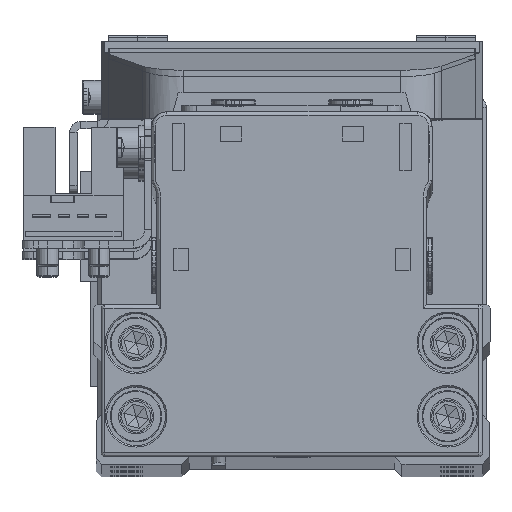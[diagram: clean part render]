
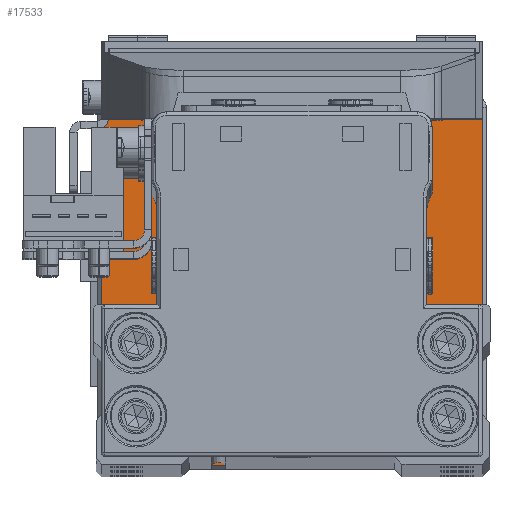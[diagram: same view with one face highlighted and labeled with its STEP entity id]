
A CAD part, top view. The second image highlights one B-rep face of the part: STEP entity #17533.
In plain terms, the highlighted planar face has unit normal (0, 0, 1).
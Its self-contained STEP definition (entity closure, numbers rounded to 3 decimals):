
#305 = AXIS2_PLACEMENT_3D ( 'NONE', #11269, #22020, #32743 ) ;
#432 = DIRECTION ( 'NONE',  ( -1., 0., 0. ) ) ;
#465 = AXIS2_PLACEMENT_3D ( 'NONE', #25030, #898, #11641 ) ;
#571 = AXIS2_PLACEMENT_3D ( 'NONE', #14546, #25297, #1162 ) ;
#695 = VERTEX_POINT ( 'NONE', #14957 ) ;
#898 = DIRECTION ( 'NONE',  ( 0., 0., -1. ) ) ;
#1104 = ORIENTED_EDGE ( 'NONE', *, *, #17793, .T. ) ;
#1162 = DIRECTION ( 'NONE',  ( 1., 0., 0. ) ) ;
#1515 = CARTESIAN_POINT ( 'NONE',  ( 21.25, 19.95, 6.5 ) ) ;
#1658 = VERTEX_POINT ( 'NONE', #17851 ) ;
#1863 = VERTEX_POINT ( 'NONE', #14094 ) ;
#1884 = CARTESIAN_POINT ( 'NONE',  ( -25., -24.95, 6.5 ) ) ;
#1926 = DIRECTION ( 'NONE',  ( 0., -1., 0. ) ) ;
#1939 = VERTEX_POINT ( 'NONE', #6333 ) ;
#2076 = VERTEX_POINT ( 'NONE', #15317 ) ;
#2213 = DIRECTION ( 'NONE',  ( 1., 0., 0. ) ) ;
#2585 = DIRECTION ( 'NONE',  ( 0., 0., -1. ) ) ;
#2696 = VECTOR ( 'NONE', #18479, 1000. ) ;
#2764 = DIRECTION ( 'NONE',  ( 0., 0., 1. ) ) ;
#3056 = EDGE_CURVE ( 'NONE', #16400, #1863, #15760, .T. ) ;
#3358 = CARTESIAN_POINT ( 'NONE',  ( 25., -24.95, 6.5 ) ) ;
#3439 = LINE ( 'NONE', #14179, #8752 ) ;
#3444 = CARTESIAN_POINT ( 'NONE',  ( -21.25, 9.95, 6.5 ) ) ;
#3467 = CIRCLE ( 'NONE', #23168, 2.4 ) ;
#3630 = VERTEX_POINT ( 'NONE', #10223 ) ;
#3905 = ORIENTED_EDGE ( 'NONE', *, *, #29785, .T. ) ;
#4130 = CIRCLE ( 'NONE', #23824, 2.4 ) ;
#5171 = EDGE_CURVE ( 'NONE', #1863, #9612, #10442, .T. ) ;
#5179 = AXIS2_PLACEMENT_3D ( 'NONE', #8511, #19258, #29999 ) ;
#5405 = FACE_OUTER_BOUND ( 'NONE', #22122, .T. ) ;
#5773 = ORIENTED_EDGE ( 'NONE', *, *, #30845, .T. ) ;
#6031 = ORIENTED_EDGE ( 'NONE', *, *, #16061, .T. ) ;
#6242 = CARTESIAN_POINT ( 'NONE',  ( 21.25, 9.95, 6.5 ) ) ;
#6333 = CARTESIAN_POINT ( 'NONE',  ( -18.85, 9.95, 6.5 ) ) ;
#6417 = ORIENTED_EDGE ( 'NONE', *, *, #10263, .T. ) ;
#7181 = AXIS2_PLACEMENT_3D ( 'NONE', #34192, #10080, #20834 ) ;
#7270 = AXIS2_PLACEMENT_3D ( 'NONE', #15595, #26338, #2213 ) ;
#7739 = CARTESIAN_POINT ( 'NONE',  ( -25., 24.95, 6.5 ) ) ;
#8006 = VERTEX_POINT ( 'NONE', #22081 ) ;
#8016 = EDGE_LOOP ( 'NONE', ( #9553, #17694 ) ) ;
#8034 = FACE_BOUND ( 'NONE', #19235, .T. ) ;
#8276 = ORIENTED_EDGE ( 'NONE', *, *, #5171, .T. ) ;
#8511 = CARTESIAN_POINT ( 'NONE',  ( 21.25, 19.95, 6.5 ) ) ;
#8752 = VECTOR ( 'NONE', #24927, 1000. ) ;
#9068 = CARTESIAN_POINT ( 'NONE',  ( 26., 23.95, 6.5 ) ) ;
#9553 = ORIENTED_EDGE ( 'NONE', *, *, #10795, .T. ) ;
#9573 = DIRECTION ( 'NONE',  ( 0., 0., 1. ) ) ;
#9612 = VERTEX_POINT ( 'NONE', #9068 ) ;
#10026 = CIRCLE ( 'NONE', #29700, 2.4 ) ;
#10080 = DIRECTION ( 'NONE',  ( 0., 0., 1. ) ) ;
#10223 = CARTESIAN_POINT ( 'NONE',  ( -18.85, 19.95, 6.5 ) ) ;
#10263 = EDGE_CURVE ( 'NONE', #695, #17038, #22376, .T. ) ;
#10442 = LINE ( 'NONE', #21203, #22552 ) ;
#10795 = EDGE_CURVE ( 'NONE', #8006, #3630, #10026, .T. ) ;
#11269 = CARTESIAN_POINT ( 'NONE',  ( -21.25, 19.95, 6.5 ) ) ;
#11641 = DIRECTION ( 'NONE',  ( -1., 0., 0. ) ) ;
#12250 = DIRECTION ( 'NONE',  ( 0., 0., -1. ) ) ;
#13320 = DIRECTION ( 'NONE',  ( -1., 0., 0. ) ) ;
#13501 = DIRECTION ( 'NONE',  ( 1., 0., 0. ) ) ;
#13539 = VERTEX_POINT ( 'NONE', #23630 ) ;
#13823 = CARTESIAN_POINT ( 'NONE',  ( 21.25, 9.95, 6.5 ) ) ;
#14094 = CARTESIAN_POINT ( 'NONE',  ( 26., -23.95, 6.5 ) ) ;
#14166 = VERTEX_POINT ( 'NONE', #19317 ) ;
#14179 = CARTESIAN_POINT ( 'NONE',  ( 25., -24.95, 6.5 ) ) ;
#14182 = DIRECTION ( 'NONE',  ( 0., 0., -1. ) ) ;
#14394 = CIRCLE ( 'NONE', #34065, 1. ) ;
#14546 = CARTESIAN_POINT ( 'NONE',  ( 25., -23.95, 6.5 ) ) ;
#14957 = CARTESIAN_POINT ( 'NONE',  ( -26., -23.95, 6.5 ) ) ;
#15317 = CARTESIAN_POINT ( 'NONE',  ( 18.85, 9.95, 6.5 ) ) ;
#15320 = LINE ( 'NONE', #26065, #29592 ) ;
#15504 = CIRCLE ( 'NONE', #305, 2.4 ) ;
#15595 = CARTESIAN_POINT ( 'NONE',  ( -25., 23.95, 6.5 ) ) ;
#15661 = CIRCLE ( 'NONE', #465, 2.4 ) ;
#15760 = CIRCLE ( 'NONE', #571, 1. ) ;
#16024 = EDGE_CURVE ( 'NONE', #17038, #16400, #3439, .T. ) ;
#16061 = EDGE_CURVE ( 'NONE', #24672, #2076, #32932, .T. ) ;
#16149 = PLANE ( 'NONE',  #22581 ) ;
#16177 = EDGE_CURVE ( 'NONE', #9612, #18011, #14394, .T. ) ;
#16400 = VERTEX_POINT ( 'NONE', #3358 ) ;
#16566 = EDGE_CURVE ( 'NONE', #13539, #695, #15320, .T. ) ;
#16988 = DIRECTION ( 'NONE',  ( 0., 0., -1. ) ) ;
#17038 = VERTEX_POINT ( 'NONE', #1884 ) ;
#17533 = ADVANCED_FACE ( 'NONE', ( #32168, #8034, #18766, #29517, #5405 ), #16149, .T. ) ;
#17694 = ORIENTED_EDGE ( 'NONE', *, *, #18980, .T. ) ;
#17766 = AXIS2_PLACEMENT_3D ( 'NONE', #6242, #16988, #27731 ) ;
#17793 = EDGE_CURVE ( 'NONE', #27097, #1658, #3467, .T. ) ;
#17851 = CARTESIAN_POINT ( 'NONE',  ( 23.65, 19.95, 6.5 ) ) ;
#18011 = VERTEX_POINT ( 'NONE', #32276 ) ;
#18479 = DIRECTION ( 'NONE',  ( -1., 0., 0. ) ) ;
#18766 = FACE_BOUND ( 'NONE', #33583, .T. ) ;
#18792 = CIRCLE ( 'NONE', #23333, 2.4 ) ;
#18980 = EDGE_CURVE ( 'NONE', #3630, #8006, #15504, .T. ) ;
#19235 = EDGE_LOOP ( 'NONE', ( #3905, #6031 ) ) ;
#19258 = DIRECTION ( 'NONE',  ( 0., 0., -1. ) ) ;
#19317 = CARTESIAN_POINT ( 'NONE',  ( -23.65, 9.95, 6.5 ) ) ;
#19550 = ORIENTED_EDGE ( 'NONE', *, *, #3056, .T. ) ;
#20333 = DIRECTION ( 'NONE',  ( 1., 0., 0. ) ) ;
#20376 = CIRCLE ( 'NONE', #5179, 2.4 ) ;
#20834 = DIRECTION ( 'NONE',  ( 1., 0., 0. ) ) ;
#21203 = CARTESIAN_POINT ( 'NONE',  ( 26., 23.95, 6.5 ) ) ;
#21340 = CARTESIAN_POINT ( 'NONE',  ( 23.65, 9.95, 6.5 ) ) ;
#21789 = CARTESIAN_POINT ( 'NONE',  ( -25., 24.95, 6.5 ) ) ;
#22020 = DIRECTION ( 'NONE',  ( 0., 0., -1. ) ) ;
#22081 = CARTESIAN_POINT ( 'NONE',  ( -23.65, 19.95, 6.5 ) ) ;
#22122 = EDGE_LOOP ( 'NONE', ( #26573, #25544, #6417, #29183, #19550, #8276, #33859, #25925 ) ) ;
#22376 = CIRCLE ( 'NONE', #7181, 1. ) ;
#22469 = CIRCLE ( 'NONE', #7270, 1. ) ;
#22552 = VECTOR ( 'NONE', #31922, 1000. ) ;
#22581 = AXIS2_PLACEMENT_3D ( 'NONE', #26894, #2764, #13501 ) ;
#23013 = DIRECTION ( 'NONE',  ( -1., 0., 0. ) ) ;
#23168 = AXIS2_PLACEMENT_3D ( 'NONE', #1515, #12250, #23013 ) ;
#23333 = AXIS2_PLACEMENT_3D ( 'NONE', #3444, #14182, #24931 ) ;
#23630 = CARTESIAN_POINT ( 'NONE',  ( -26., 23.95, 6.5 ) ) ;
#23824 = AXIS2_PLACEMENT_3D ( 'NONE', #13823, #24572, #432 ) ;
#24572 = DIRECTION ( 'NONE',  ( 0., 0., -1. ) ) ;
#24672 = VERTEX_POINT ( 'NONE', #21340 ) ;
#24868 = EDGE_CURVE ( 'NONE', #14166, #1939, #15661, .T. ) ;
#24911 = EDGE_LOOP ( 'NONE', ( #1104, #33331 ) ) ;
#24927 = DIRECTION ( 'NONE',  ( 1., 0., 0. ) ) ;
#24931 = DIRECTION ( 'NONE',  ( -1., 0., 0. ) ) ;
#25030 = CARTESIAN_POINT ( 'NONE',  ( -21.25, 9.95, 6.5 ) ) ;
#25040 = CARTESIAN_POINT ( 'NONE',  ( 18.85, 19.95, 6.5 ) ) ;
#25297 = DIRECTION ( 'NONE',  ( 0., 0., 1. ) ) ;
#25544 = ORIENTED_EDGE ( 'NONE', *, *, #16566, .T. ) ;
#25925 = ORIENTED_EDGE ( 'NONE', *, *, #26094, .T. ) ;
#26065 = CARTESIAN_POINT ( 'NONE',  ( -26., -23.95, 6.5 ) ) ;
#26094 = EDGE_CURVE ( 'NONE', #18011, #27910, #31864, .T. ) ;
#26338 = DIRECTION ( 'NONE',  ( 0., 0., 1. ) ) ;
#26573 = ORIENTED_EDGE ( 'NONE', *, *, #26956, .T. ) ;
#26710 = CARTESIAN_POINT ( 'NONE',  ( -21.25, 19.95, 6.5 ) ) ;
#26894 = CARTESIAN_POINT ( 'NONE',  ( 0., 0., 6.5 ) ) ;
#26956 = EDGE_CURVE ( 'NONE', #27910, #13539, #22469, .T. ) ;
#27097 = VERTEX_POINT ( 'NONE', #25040 ) ;
#27731 = DIRECTION ( 'NONE',  ( -1., 0., 0. ) ) ;
#27910 = VERTEX_POINT ( 'NONE', #21789 ) ;
#29183 = ORIENTED_EDGE ( 'NONE', *, *, #16024, .T. ) ;
#29517 = FACE_BOUND ( 'NONE', #8016, .T. ) ;
#29592 = VECTOR ( 'NONE', #1926, 1000. ) ;
#29700 = AXIS2_PLACEMENT_3D ( 'NONE', #26710, #2585, #13320 ) ;
#29785 = EDGE_CURVE ( 'NONE', #2076, #24672, #4130, .T. ) ;
#29999 = DIRECTION ( 'NONE',  ( -1., 0., 0. ) ) ;
#30845 = EDGE_CURVE ( 'NONE', #1939, #14166, #18792, .T. ) ;
#31864 = LINE ( 'NONE', #7739, #2696 ) ;
#31922 = DIRECTION ( 'NONE',  ( 0., 1., 0. ) ) ;
#32168 = FACE_BOUND ( 'NONE', #24911, .T. ) ;
#32276 = CARTESIAN_POINT ( 'NONE',  ( 25., 24.95, 6.5 ) ) ;
#32743 = DIRECTION ( 'NONE',  ( -1., 0., 0. ) ) ;
#32814 = ORIENTED_EDGE ( 'NONE', *, *, #24868, .T. ) ;
#32932 = CIRCLE ( 'NONE', #17766, 2.4 ) ;
#33331 = ORIENTED_EDGE ( 'NONE', *, *, #33962, .T. ) ;
#33583 = EDGE_LOOP ( 'NONE', ( #32814, #5773 ) ) ;
#33690 = CARTESIAN_POINT ( 'NONE',  ( 25., 23.95, 6.5 ) ) ;
#33859 = ORIENTED_EDGE ( 'NONE', *, *, #16177, .T. ) ;
#33962 = EDGE_CURVE ( 'NONE', #1658, #27097, #20376, .T. ) ;
#34065 = AXIS2_PLACEMENT_3D ( 'NONE', #33690, #9573, #20333 ) ;
#34192 = CARTESIAN_POINT ( 'NONE',  ( -25., -23.95, 6.5 ) ) ;
